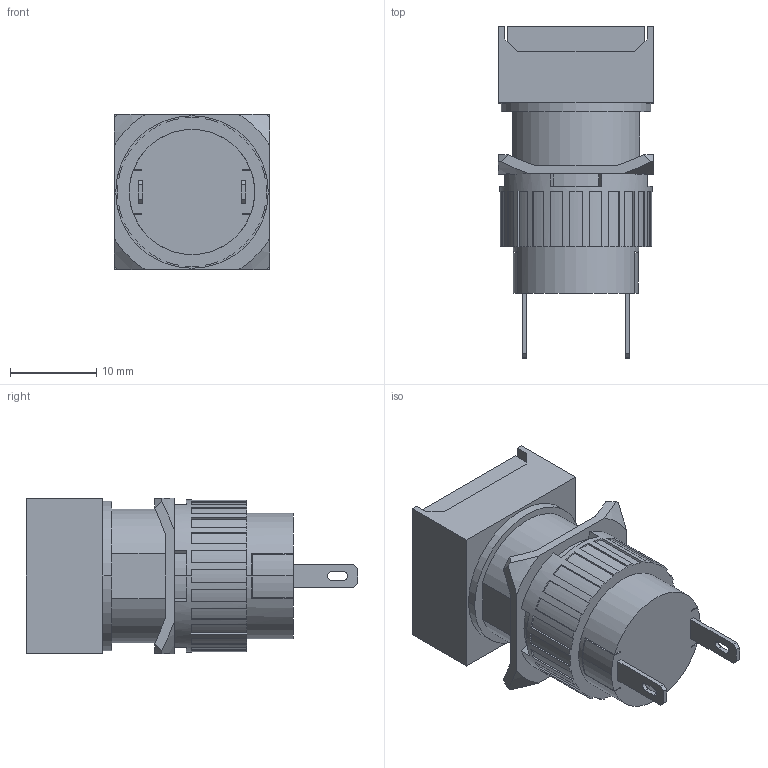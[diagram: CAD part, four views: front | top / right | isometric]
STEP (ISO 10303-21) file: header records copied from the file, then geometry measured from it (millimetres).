
FILE_DESCRIPTION (( 'STEP AP203' ), '1' );
FILE_NAME ('P16-PS.STEP', '2018-02-15T15:28:19', ( '' ), ( '' ), 'SwSTEP 2.0', 'SolidWorks 2012', '' );
FILE_SCHEMA (( 'CONFIG_CONTROL_DESIGN' ));
Length unit declared in the file: millimetre
Products named in the file (1): P16-PS
Bounding box: 18 x 38.4 x 18 mm (x, y, z)
Volume: 7241.3 mm3; surface area: 3814.6 mm2
Topology: 1 solids, 1 shells, 209 faces, 597 edges, 398 vertices
Faces by surface type: plane 150, cylinder 47, cone 12
Entity records: 6950 total; most frequent: CARTESIAN_POINT 1277, ORIENTED_EDGE 1194, DIRECTION 1163, EDGE_CURVE 597, LINE 403, VECTOR 403, VERTEX_POINT 398, AXIS2_PLACEMENT_3D 380
